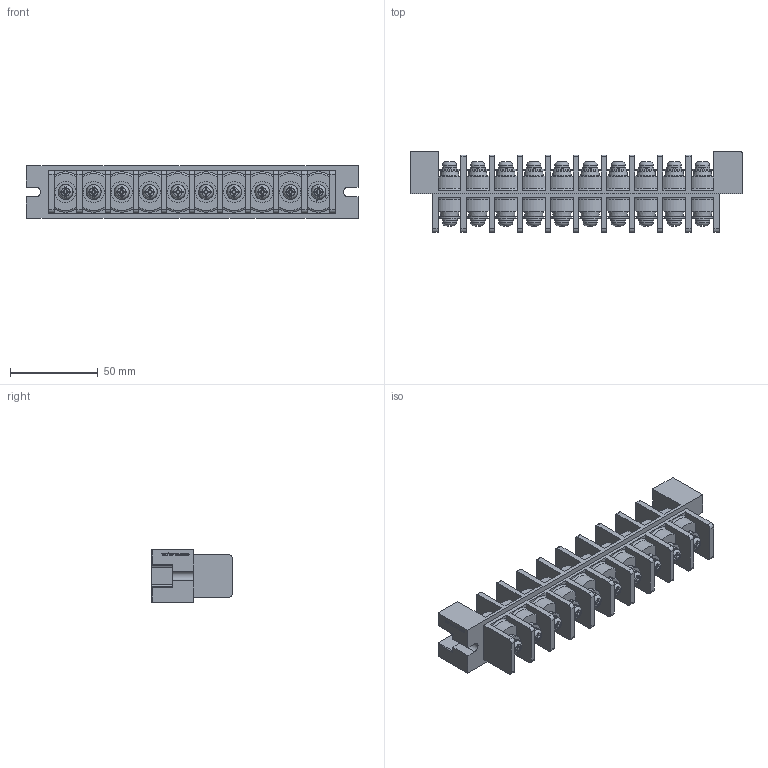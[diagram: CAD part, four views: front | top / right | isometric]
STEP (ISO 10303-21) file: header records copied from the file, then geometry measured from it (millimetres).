
FILE_DESCRIPTION(/* description */ ('Alibre Inc.'),/* implementation_level */ '2;1');
FILE_NAME(/* name */ 'export0',/* time_stamp */ '2016-01-14T19:27:55+09:00',/* author */ (''),/* organization */ (''),/* preprocessor_version */ 'ST-DEVELOPER v14',/* originating_system */ 'Alibre',/* authorisation */ '');
FILE_SCHEMA (('CONFIG_CONTROL_DESIGN'));
Length unit declared in the file: centimetre
Products named in the file (1): ID_1
Bounding box: 189 x 46 x 30 mm (x, y, z)
Volume: 117963.7 mm3; surface area: 49730.3 mm2
Topology: 1 solids, 31 shells, 1324 faces, 3494 edges, 2295 vertices
Faces by surface type: plane 706, cylinder 266, cone 160, sphere 80, torus 60, bspline 52
Full cylindrical faces by diameter (mm): 4.55 x2, 5 x30, 8 x20, 10.75 x20, 12 x20
Entity records: 40714 total; most frequent: CARTESIAN_POINT 11348, ORIENTED_EDGE 6442, DIRECTION 4983, EDGE_CURVE 3221, VERTEX_POINT 2214, AXIS2_PLACEMENT_3D 2065, EDGE_LOOP 1619, FACE_BOUND 1619
